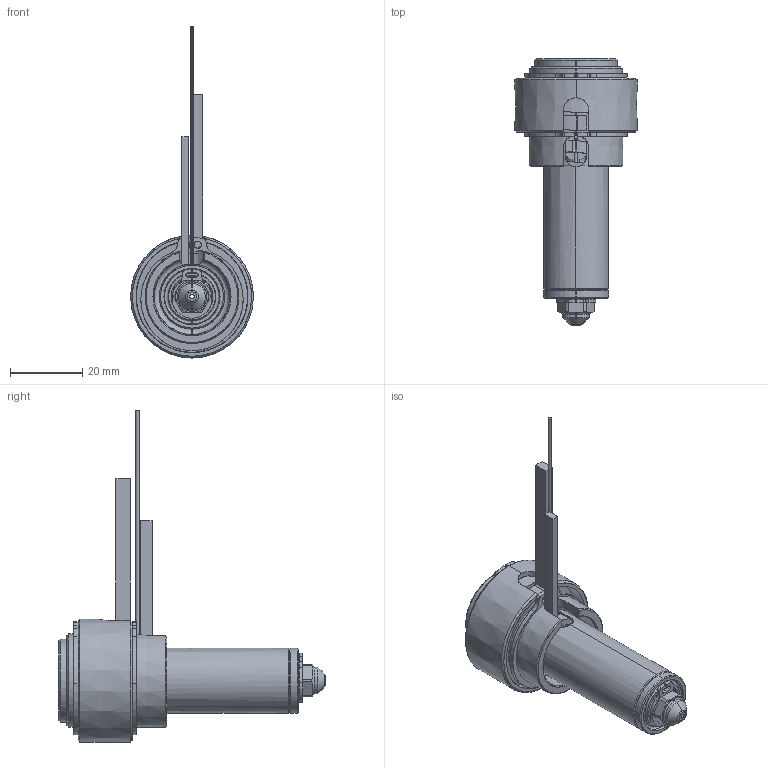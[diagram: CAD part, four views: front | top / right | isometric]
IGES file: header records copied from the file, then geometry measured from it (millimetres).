
Start section: SolidWorks IGES file using analytic representation for surfaces
Global section: file name: C:\Documents and Settings\ws-20\Desktop\TEM\UGER2501-M-A-0 [Øb-1.30 ØC-5.0].IGS; native system: SolidWorks 2012; preprocessor: SolidWorks 2012; author: ws-20; date: 120405.104859; units: millimetre
Bounding box: 34 x 73.9 x 91.9 mm (x, y, z)
Surface area: 19210.5 mm2 (no closed solid volume)
Topology: 0 solids, 0 shells, 196 faces, 2503 edges, 2503 vertices
Faces by surface type: revolution 124, bspline 72
